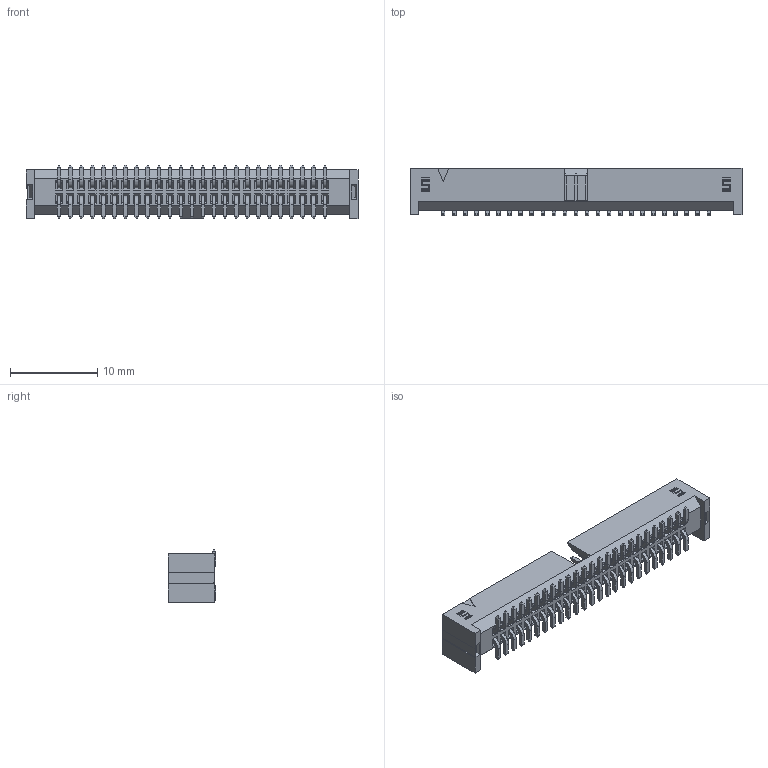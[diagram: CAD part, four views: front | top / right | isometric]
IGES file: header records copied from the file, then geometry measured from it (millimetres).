
Start section: SolidWorks IGES file using analytic representation for surfaces
Global section: file name: \\samtec.ad\customermodels\BasicModels\iges\SHF-125-01-X-D-SM.igs; native system: SolidWorks 2012; preprocessor: SolidWorks 2012; author: emmac; date: 140123.150747; units: inch
Bounding box: 38.1 x 5.46 x 6.1 mm (x, y, z)
Surface area: 1595.2 mm2 (no closed solid volume)
Topology: 0 solids, 0 shells, 1375 faces, 7848 edges, 7848 vertices
Faces by surface type: bspline 1275, revolution 100
